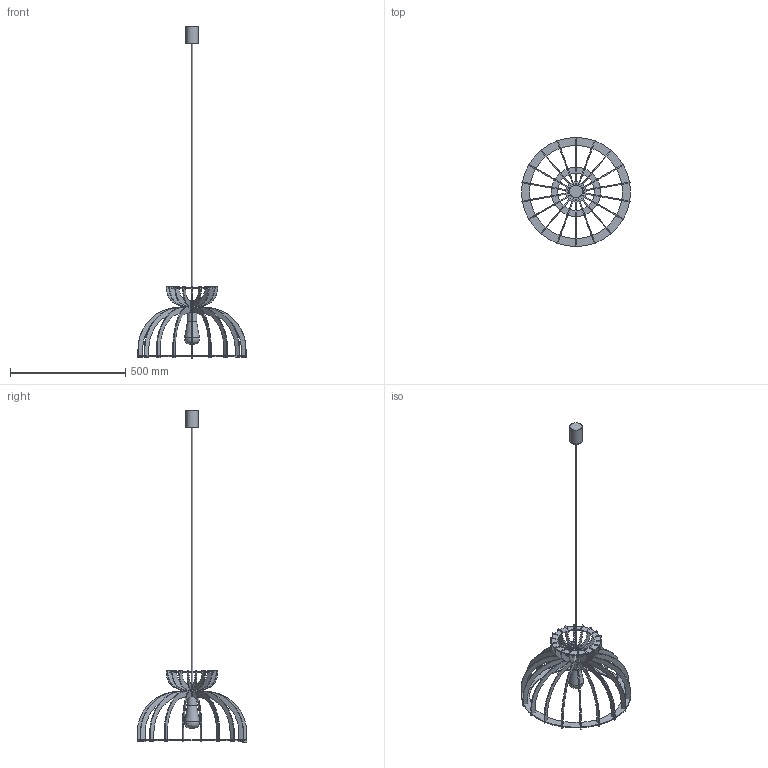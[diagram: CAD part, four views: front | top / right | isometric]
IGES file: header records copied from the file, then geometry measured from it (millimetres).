
Start section: SolidWorks IGES file using analytic representation for surfaces
Global section: file name: X:\PRODUKT\Modele 3D_WWW\_KOLEKCJE WWW\KYMI\KYMI-C-10575-10572\KYMI-C-10575-10572.IGS; native system: SolidWorks 2021; preprocessor: SolidWorks 2021; author: gabriela.tworek; date: 221128.124522; units: millimetre
Bounding box: 474 x 476.33 x 1443.07 mm (x, y, z)
Surface area: 700671.1 mm2 (no closed solid volume)
Topology: 0 solids, 0 shells, 457 faces, 2154 edges, 2088 vertices
Faces by surface type: bspline 295, revolution 162
